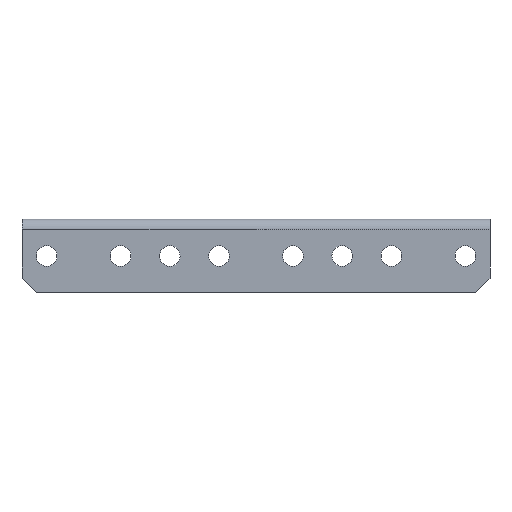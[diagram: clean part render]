
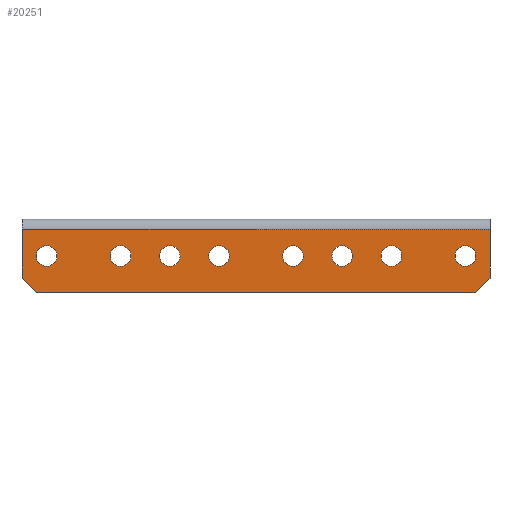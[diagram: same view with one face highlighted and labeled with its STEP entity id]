
A CAD part, front view. The second image highlights one B-rep face of the part: STEP entity #20251.
In plain terms, the highlighted planar face has unit normal (0, -1, 0).
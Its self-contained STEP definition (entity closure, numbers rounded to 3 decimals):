
#18096=CARTESIAN_POINT(' ',(-47.5,-58.,-2.1));
#18097=VERTEX_POINT(' ',#18096);
#18111=CARTESIAN_POINT(' ',(-47.5,-58.,-2.1));
#18116=DIRECTION(' ',(1.,0.,0.));
#18121=VECTOR(' ',#18116,1.);
#18126=LINE('',#18111,#18121);
#18131=CARTESIAN_POINT(' ',(47.5,-58.,-2.1));
#18132=VERTEX_POINT(' ',#18131);
#18136=EDGE_CURVE(' ',#18097,#18132,#18126,.T.);
#18231=CARTESIAN_POINT(' ',(47.5,-58.,-12.));
#18236=DIRECTION(' ',(0.,0.,1.));
#18241=VECTOR(' ',#18236,1.);
#18246=LINE('',#18231,#18241);
#18251=CARTESIAN_POINT(' ',(47.5,-58.,-12.));
#18252=VERTEX_POINT(' ',#18251);
#18256=EDGE_CURVE(' ',#18252,#18132,#18246,.T.);
#19306=CARTESIAN_POINT(' ',(-47.5,-58.,-12.));
#19307=VERTEX_POINT(' ',#19306);
#19321=CARTESIAN_POINT(' ',(-47.5,-58.,-2.1));
#19326=DIRECTION(' ',(0.,0.,-1.));
#19331=VECTOR(' ',#19326,1.);
#19336=LINE('',#19321,#19331);
#19341=EDGE_CURVE(' ',#18097,#19307,#19336,.T.);
#19381=DIRECTION(' ',(0.,-1.,0.));
#19386=CARTESIAN_POINT(' ',(-47.5,-58.,-15.));
#19391=DIRECTION(' ',(1.,0.,0.));
#19396=AXIS2_PLACEMENT_3D(' ',#19386,#19381,#19391);
#19401=PLANE('NONE',#19396);
#19406=CARTESIAN_POINT(' ',(-44.5,-58.,-15.));
#19411=DIRECTION(' ',(1.,0.,0.));
#19416=VECTOR(' ',#19411,1.);
#19421=LINE('',#19406,#19416);
#19426=CARTESIAN_POINT(' ',(-44.5,-58.,-15.));
#19427=VERTEX_POINT(' ',#19426);
#19431=CARTESIAN_POINT(' ',(44.5,-58.,-15.));
#19432=VERTEX_POINT(' ',#19431);
#19436=EDGE_CURVE(' ',#19427,#19432,#19421,.T.);
#19441=ORIENTED_EDGE(' ',*,*,#19436,.T.);
#19446=CARTESIAN_POINT(' ',(44.5,-58.,-15.));
#19451=DIRECTION(' ',(0.707,0.,0.707));
#19456=VECTOR(' ',#19451,1.);
#19461=LINE('',#19446,#19456);
#19466=EDGE_CURVE(' ',#19432,#18252,#19461,.T.);
#19471=ORIENTED_EDGE(' ',*,*,#19466,.T.);
#19476=ORIENTED_EDGE(' ',*,*,#18256,.T.);
#19481=ORIENTED_EDGE(' ',*,*,#18136,.F.);
#19486=ORIENTED_EDGE(' ',*,*,#19341,.T.);
#19491=CARTESIAN_POINT(' ',(-47.5,-58.,-12.));
#19496=DIRECTION(' ',(0.707,0.,-0.707));
#19501=VECTOR(' ',#19496,1.);
#19506=LINE('',#19491,#19501);
#19511=EDGE_CURVE(' ',#19307,#19427,#19506,.T.);
#19516=ORIENTED_EDGE(' ',*,*,#19511,.T.);
#19521=EDGE_LOOP(' ',(#19441,#19471,#19476,#19481,#19486,#19516));
#19526=FACE_OUTER_BOUND(' ',#19521,.T.);
#19531=CARTESIAN_POINT(' ',(42.5,-58.,-7.5));
#19536=DIRECTION(' ',(0.,-1.,0.));
#19541=DIRECTION(' ',(0.,0.,-1.));
#19546=AXIS2_PLACEMENT_3D(' ',#19531,#19536,#19541);
#19551=CIRCLE('',#19546,2.1);
#19556=CARTESIAN_POINT(' ',(42.5,-58.,-9.6));
#19557=VERTEX_POINT(' ',#19556);
#19561=CARTESIAN_POINT(' ',(42.5,-58.,-5.4));
#19562=VERTEX_POINT(' ',#19561);
#19566=EDGE_CURVE(' ',#19557,#19562,#19551,.T.);
#19571=ORIENTED_EDGE(' ',*,*,#19566,.F.);
#19576=CARTESIAN_POINT(' ',(42.5,-58.,-7.5));
#19581=DIRECTION(' ',(0.,-1.,0.));
#19586=DIRECTION(' ',(0.,0.,1.));
#19591=AXIS2_PLACEMENT_3D(' ',#19576,#19581,#19586);
#19596=CIRCLE('',#19591,2.1);
#19601=EDGE_CURVE(' ',#19562,#19557,#19596,.T.);
#19606=ORIENTED_EDGE(' ',*,*,#19601,.F.);
#19611=EDGE_LOOP(' ',(#19571,#19606));
#19616=FACE_BOUND(' ',#19611,.T.);
#19621=CARTESIAN_POINT(' ',(27.5,-58.,-7.5));
#19626=DIRECTION(' ',(0.,-1.,0.));
#19631=DIRECTION(' ',(0.,0.,-1.));
#19636=AXIS2_PLACEMENT_3D(' ',#19621,#19626,#19631);
#19641=CIRCLE('',#19636,2.1);
#19646=CARTESIAN_POINT(' ',(27.5,-58.,-9.6));
#19647=VERTEX_POINT(' ',#19646);
#19651=CARTESIAN_POINT(' ',(27.5,-58.,-5.4));
#19652=VERTEX_POINT(' ',#19651);
#19656=EDGE_CURVE(' ',#19647,#19652,#19641,.T.);
#19661=ORIENTED_EDGE(' ',*,*,#19656,.F.);
#19666=CARTESIAN_POINT(' ',(27.5,-58.,-7.5));
#19671=DIRECTION(' ',(0.,-1.,0.));
#19676=DIRECTION(' ',(0.,0.,1.));
#19681=AXIS2_PLACEMENT_3D(' ',#19666,#19671,#19676);
#19686=CIRCLE('',#19681,2.1);
#19691=EDGE_CURVE(' ',#19652,#19647,#19686,.T.);
#19696=ORIENTED_EDGE(' ',*,*,#19691,.F.);
#19701=EDGE_LOOP(' ',(#19661,#19696));
#19706=FACE_BOUND(' ',#19701,.T.);
#19711=CARTESIAN_POINT(' ',(-42.5,-58.,-7.5));
#19716=DIRECTION(' ',(0.,-1.,0.));
#19721=DIRECTION(' ',(0.,0.,-1.));
#19726=AXIS2_PLACEMENT_3D(' ',#19711,#19716,#19721);
#19731=CIRCLE('',#19726,2.1);
#19736=CARTESIAN_POINT(' ',(-42.5,-58.,-9.6));
#19737=VERTEX_POINT(' ',#19736);
#19741=CARTESIAN_POINT(' ',(-42.5,-58.,-5.4));
#19742=VERTEX_POINT(' ',#19741);
#19746=EDGE_CURVE(' ',#19737,#19742,#19731,.T.);
#19751=ORIENTED_EDGE(' ',*,*,#19746,.F.);
#19756=CARTESIAN_POINT(' ',(-42.5,-58.,-7.5));
#19761=DIRECTION(' ',(0.,-1.,0.));
#19766=DIRECTION(' ',(0.,0.,1.));
#19771=AXIS2_PLACEMENT_3D(' ',#19756,#19761,#19766);
#19776=CIRCLE('',#19771,2.1);
#19781=EDGE_CURVE(' ',#19742,#19737,#19776,.T.);
#19786=ORIENTED_EDGE(' ',*,*,#19781,.F.);
#19791=EDGE_LOOP(' ',(#19751,#19786));
#19796=FACE_BOUND(' ',#19791,.T.);
#19801=CARTESIAN_POINT(' ',(-7.5,-58.,-7.5));
#19806=DIRECTION(' ',(0.,-1.,0.));
#19811=DIRECTION(' ',(0.,0.,-1.));
#19816=AXIS2_PLACEMENT_3D(' ',#19801,#19806,#19811);
#19821=CIRCLE('',#19816,2.1);
#19826=CARTESIAN_POINT(' ',(-7.5,-58.,-9.6));
#19827=VERTEX_POINT(' ',#19826);
#19831=CARTESIAN_POINT(' ',(-7.5,-58.,-5.4));
#19832=VERTEX_POINT(' ',#19831);
#19836=EDGE_CURVE(' ',#19827,#19832,#19821,.T.);
#19841=ORIENTED_EDGE(' ',*,*,#19836,.F.);
#19846=CARTESIAN_POINT(' ',(-7.5,-58.,-7.5));
#19851=DIRECTION(' ',(0.,-1.,0.));
#19856=DIRECTION(' ',(0.,0.,1.));
#19861=AXIS2_PLACEMENT_3D(' ',#19846,#19851,#19856);
#19866=CIRCLE('',#19861,2.1);
#19871=EDGE_CURVE(' ',#19832,#19827,#19866,.T.);
#19876=ORIENTED_EDGE(' ',*,*,#19871,.F.);
#19881=EDGE_LOOP(' ',(#19841,#19876));
#19886=FACE_BOUND(' ',#19881,.T.);
#19891=CARTESIAN_POINT(' ',(-27.5,-58.,-7.5));
#19896=DIRECTION(' ',(0.,-1.,0.));
#19901=DIRECTION(' ',(0.,0.,-1.));
#19906=AXIS2_PLACEMENT_3D(' ',#19891,#19896,#19901);
#19911=CIRCLE('',#19906,2.1);
#19916=CARTESIAN_POINT(' ',(-27.5,-58.,-9.6));
#19917=VERTEX_POINT(' ',#19916);
#19921=CARTESIAN_POINT(' ',(-27.5,-58.,-5.4));
#19922=VERTEX_POINT(' ',#19921);
#19926=EDGE_CURVE(' ',#19917,#19922,#19911,.T.);
#19931=ORIENTED_EDGE(' ',*,*,#19926,.F.);
#19936=CARTESIAN_POINT(' ',(-27.5,-58.,-7.5));
#19941=DIRECTION(' ',(0.,-1.,0.));
#19946=DIRECTION(' ',(0.,0.,1.));
#19951=AXIS2_PLACEMENT_3D(' ',#19936,#19941,#19946);
#19956=CIRCLE('',#19951,2.1);
#19961=EDGE_CURVE(' ',#19922,#19917,#19956,.T.);
#19966=ORIENTED_EDGE(' ',*,*,#19961,.F.);
#19971=EDGE_LOOP(' ',(#19931,#19966));
#19976=FACE_BOUND(' ',#19971,.T.);
#19981=CARTESIAN_POINT(' ',(7.5,-58.,-7.5));
#19986=DIRECTION(' ',(0.,-1.,0.));
#19991=DIRECTION(' ',(0.,0.,-1.));
#19996=AXIS2_PLACEMENT_3D(' ',#19981,#19986,#19991);
#20001=CIRCLE('',#19996,2.1);
#20006=CARTESIAN_POINT(' ',(7.5,-58.,-9.6));
#20007=VERTEX_POINT(' ',#20006);
#20011=CARTESIAN_POINT(' ',(7.5,-58.,-5.4));
#20012=VERTEX_POINT(' ',#20011);
#20016=EDGE_CURVE(' ',#20007,#20012,#20001,.T.);
#20021=ORIENTED_EDGE(' ',*,*,#20016,.F.);
#20026=CARTESIAN_POINT(' ',(7.5,-58.,-7.5));
#20031=DIRECTION(' ',(0.,-1.,0.));
#20036=DIRECTION(' ',(0.,0.,1.));
#20041=AXIS2_PLACEMENT_3D(' ',#20026,#20031,#20036);
#20046=CIRCLE('',#20041,2.1);
#20051=EDGE_CURVE(' ',#20012,#20007,#20046,.T.);
#20056=ORIENTED_EDGE(' ',*,*,#20051,.F.);
#20061=EDGE_LOOP(' ',(#20021,#20056));
#20066=FACE_BOUND(' ',#20061,.T.);
#20071=CARTESIAN_POINT(' ',(17.5,-58.,-7.5));
#20076=DIRECTION(' ',(0.,-1.,0.));
#20081=DIRECTION(' ',(0.,0.,-1.));
#20086=AXIS2_PLACEMENT_3D(' ',#20071,#20076,#20081);
#20091=CIRCLE('',#20086,2.1);
#20096=CARTESIAN_POINT(' ',(17.5,-58.,-9.6));
#20097=VERTEX_POINT(' ',#20096);
#20101=CARTESIAN_POINT(' ',(17.5,-58.,-5.4));
#20102=VERTEX_POINT(' ',#20101);
#20106=EDGE_CURVE(' ',#20097,#20102,#20091,.T.);
#20111=ORIENTED_EDGE(' ',*,*,#20106,.F.);
#20116=CARTESIAN_POINT(' ',(17.5,-58.,-7.5));
#20121=DIRECTION(' ',(0.,-1.,0.));
#20126=DIRECTION(' ',(0.,0.,1.));
#20131=AXIS2_PLACEMENT_3D(' ',#20116,#20121,#20126);
#20136=CIRCLE('',#20131,2.1);
#20141=EDGE_CURVE(' ',#20102,#20097,#20136,.T.);
#20146=ORIENTED_EDGE(' ',*,*,#20141,.F.);
#20151=EDGE_LOOP(' ',(#20111,#20146));
#20156=FACE_BOUND(' ',#20151,.T.);
#20161=CARTESIAN_POINT(' ',(-17.5,-58.,-7.5));
#20166=DIRECTION(' ',(0.,-1.,0.));
#20171=DIRECTION(' ',(0.,0.,-1.));
#20176=AXIS2_PLACEMENT_3D(' ',#20161,#20166,#20171);
#20181=CIRCLE('',#20176,2.1);
#20186=CARTESIAN_POINT(' ',(-17.5,-58.,-9.6));
#20187=VERTEX_POINT(' ',#20186);
#20191=CARTESIAN_POINT(' ',(-17.5,-58.,-5.4));
#20192=VERTEX_POINT(' ',#20191);
#20196=EDGE_CURVE(' ',#20187,#20192,#20181,.T.);
#20201=ORIENTED_EDGE(' ',*,*,#20196,.F.);
#20206=CARTESIAN_POINT(' ',(-17.5,-58.,-7.5));
#20211=DIRECTION(' ',(0.,-1.,0.));
#20216=DIRECTION(' ',(0.,0.,1.));
#20221=AXIS2_PLACEMENT_3D(' ',#20206,#20211,#20216);
#20226=CIRCLE('',#20221,2.1);
#20231=EDGE_CURVE(' ',#20192,#20187,#20226,.T.);
#20236=ORIENTED_EDGE(' ',*,*,#20231,.F.);
#20241=EDGE_LOOP(' ',(#20201,#20236));
#20246=FACE_BOUND(' ',#20241,.T.);
#20251=ADVANCED_FACE('NONE',(#19526,#19616,#19706,#19796,#19886,#19976,#20066,#20156,#20246),#19401,.T.);
